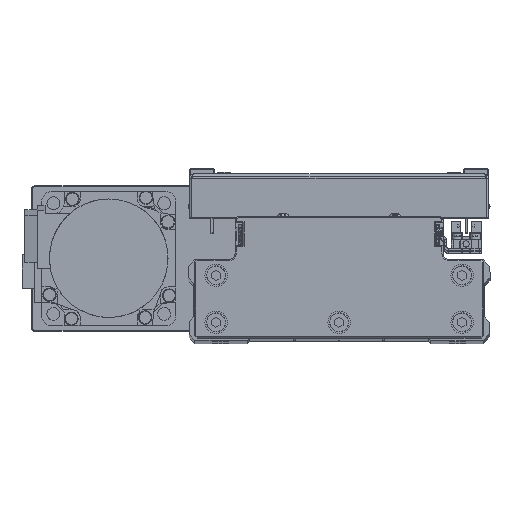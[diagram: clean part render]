
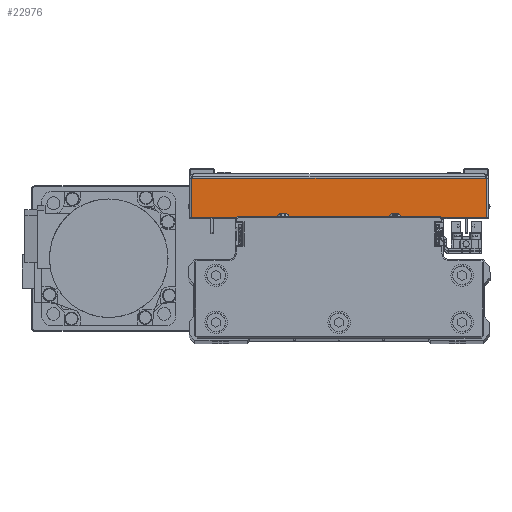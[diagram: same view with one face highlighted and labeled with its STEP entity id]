
A CAD part, top view. The second image highlights one B-rep face of the part: STEP entity #22976.
In plain terms, the highlighted planar face has unit normal (0, 0, 1) as drawn and (1, 0, 0) by its records, which use the part's own axes.
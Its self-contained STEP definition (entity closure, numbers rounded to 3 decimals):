
#118 = VECTOR ( 'NONE', #8855, 1000. ) ;
#690 = CARTESIAN_POINT ( 'NONE',  ( 100., 0., 0. ) ) ;
#1840 = CARTESIAN_POINT ( 'NONE',  ( 100., 18.5, -65.929 ) ) ;
#3505 = CARTESIAN_POINT ( 'NONE',  ( 100., 1., 65.929 ) ) ;
#3904 = ORIENTED_EDGE ( 'NONE', *, *, #6826, .T. ) ;
#4261 = AXIS2_PLACEMENT_3D ( 'NONE', #690, #14354, #28012 ) ;
#6826 = EDGE_CURVE ( 'NONE', #20655, #9003, #25876, .T. ) ;
#7560 = VERTEX_POINT ( 'NONE', #10376 ) ;
#8855 = DIRECTION ( 'NONE',  ( 0., 1., 0. ) ) ;
#9003 = VERTEX_POINT ( 'NONE', #1840 ) ;
#10376 = CARTESIAN_POINT ( 'NONE',  ( 100., 18.5, 65.929 ) ) ;
#11806 = LINE ( 'NONE', #25461, #21015 ) ;
#14354 = DIRECTION ( 'NONE',  ( -1., 0., 0. ) ) ;
#15140 = ORIENTED_EDGE ( 'NONE', *, *, #33055, .T. ) ;
#15437 = LINE ( 'NONE', #29086, #43919 ) ;
#16030 = VECTOR ( 'NONE', #44138, 1000. ) ;
#16044 = EDGE_CURVE ( 'NONE', #26294, #7560, #11806, .T. ) ;
#16756 = EDGE_CURVE ( 'NONE', #20655, #26294, #16861, .T. ) ;
#16861 = LINE ( 'NONE', #30511, #16030 ) ;
#17714 = FACE_OUTER_BOUND ( 'NONE', #25830, .T. ) ;
#20655 = VERTEX_POINT ( 'NONE', #41139 ) ;
#21015 = VECTOR ( 'NONE', #39097, 1000. ) ;
#22976 = ADVANCED_FACE ( 'NONE', ( #17714 ), #31358, .F. ) ;
#25461 = CARTESIAN_POINT ( 'NONE',  ( 100., 0., 65.929 ) ) ;
#25830 = EDGE_LOOP ( 'NONE', ( #35532, #3904, #15140, #37375 ) ) ;
#25876 = LINE ( 'NONE', #39515, #118 ) ;
#26294 = VERTEX_POINT ( 'NONE', #3505 ) ;
#28012 = DIRECTION ( 'NONE',  ( 0., -1., 0. ) ) ;
#29086 = CARTESIAN_POINT ( 'NONE',  ( 100., 18.5, 0. ) ) ;
#30511 = CARTESIAN_POINT ( 'NONE',  ( 100., 1., 67. ) ) ;
#31358 = PLANE ( 'NONE',  #4261 ) ;
#33055 = EDGE_CURVE ( 'NONE', #9003, #7560, #15437, .T. ) ;
#35532 = ORIENTED_EDGE ( 'NONE', *, *, #16756, .F. ) ;
#37375 = ORIENTED_EDGE ( 'NONE', *, *, #16044, .F. ) ;
#39097 = DIRECTION ( 'NONE',  ( 0., 1., 0. ) ) ;
#39515 = CARTESIAN_POINT ( 'NONE',  ( 100., 0., -65.929 ) ) ;
#41139 = CARTESIAN_POINT ( 'NONE',  ( 100., 1., -65.929 ) ) ;
#42721 = DIRECTION ( 'NONE',  ( 0., 0., 1. ) ) ;
#43919 = VECTOR ( 'NONE', #42721, 1000. ) ;
#44138 = DIRECTION ( 'NONE',  ( 0., 0., 1. ) ) ;
